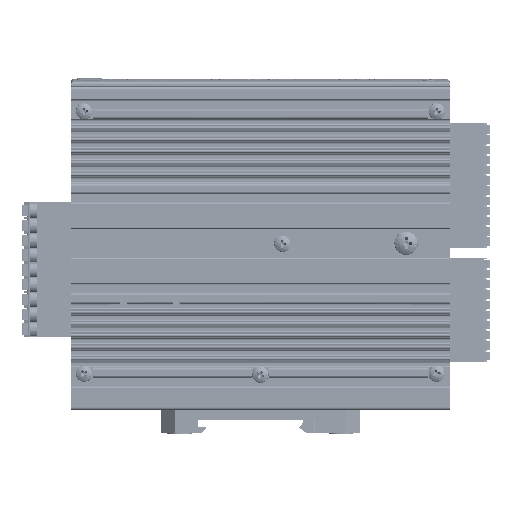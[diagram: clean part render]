
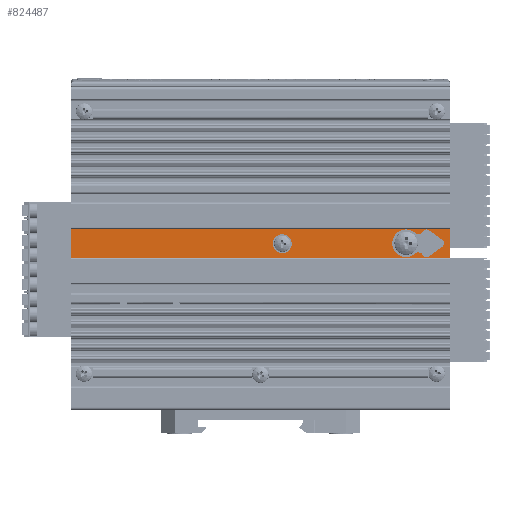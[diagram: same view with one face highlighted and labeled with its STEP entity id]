
A CAD part, left-side view. The second image highlights one B-rep face of the part: STEP entity #824487.
In plain terms, the highlighted planar face has unit normal (-1, 0, 0) as drawn and (0, 0, -1) by its records, which use the part's own axes.
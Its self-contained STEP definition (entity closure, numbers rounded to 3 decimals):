
#4838 = ORIENTED_EDGE ( 'NONE', *, *, #300573, .F. ) ;
#29733 = DIRECTION ( 'NONE',  ( 0., 0., -1. ) ) ;
#34721 = CARTESIAN_POINT ( 'NONE',  ( 74.107, 0., -69.697 ) ) ;
#46610 = CARTESIAN_POINT ( 'NONE',  ( 64.191, 72.5, -69.697 ) ) ;
#95324 = DIRECTION ( 'NONE',  ( 0., 0., 1. ) ) ;
#98968 = VERTEX_POINT ( 'NONE', #677851 ) ;
#109163 = LINE ( 'NONE', #171686, #788075 ) ;
#137972 = LINE ( 'NONE', #497425, #416685 ) ;
#138323 = AXIS2_PLACEMENT_3D ( 'NONE', #676855, #188086, #466105 ) ;
#138902 = CIRCLE ( 'NONE', #169812, 2.15 ) ;
#155533 = ORIENTED_EDGE ( 'NONE', *, *, #590118, .T. ) ;
#164474 = AXIS2_PLACEMENT_3D ( 'NONE', #389347, #29733, #839292 ) ;
#169812 = AXIS2_PLACEMENT_3D ( 'NONE', #262102, #338879, #554418 ) ;
#171686 = CARTESIAN_POINT ( 'NONE',  ( 74.107, 0., -69.697 ) ) ;
#173831 = FACE_BOUND ( 'NONE', #427153, .T. ) ;
#176406 = DIRECTION ( 'NONE',  ( 0., 0., -1. ) ) ;
#188086 = DIRECTION ( 'NONE',  ( 0., 0., 1. ) ) ;
#212886 = CARTESIAN_POINT ( 'NONE',  ( 62.207, 115., -69.697 ) ) ;
#240963 = FACE_OUTER_BOUND ( 'NONE', #682895, .T. ) ;
#256035 = EDGE_CURVE ( 'NONE', #98968, #576803, #292170, .T. ) ;
#262102 = CARTESIAN_POINT ( 'NONE',  ( 64.357, 115., -69.697 ) ) ;
#281621 = DIRECTION ( 'NONE',  ( 1., 0., 0. ) ) ;
#285108 = CARTESIAN_POINT ( 'NONE',  ( 54.357, 130., -69.697 ) ) ;
#292170 = LINE ( 'NONE', #368879, #593059 ) ;
#300573 = EDGE_CURVE ( 'NONE', #346616, #334099, #776531, .T. ) ;
#303045 = EDGE_CURVE ( 'NONE', #331658, #575545, #643698, .T. ) ;
#324849 = DIRECTION ( 'NONE',  ( 0., -1., 0. ) ) ;
#331658 = VERTEX_POINT ( 'NONE', #474824 ) ;
#332749 = EDGE_CURVE ( 'NONE', #98968, #497842, #137972, .T. ) ;
#334099 = VERTEX_POINT ( 'NONE', #821945 ) ;
#338879 = DIRECTION ( 'NONE',  ( 0., 0., 1. ) ) ;
#343921 = VECTOR ( 'NONE', #649156, 1000. ) ;
#346616 = VERTEX_POINT ( 'NONE', #771163 ) ;
#368879 = CARTESIAN_POINT ( 'NONE',  ( 54.607, 130., -69.697 ) ) ;
#389347 = CARTESIAN_POINT ( 'NONE',  ( 64.191, 72.5, -69.697 ) ) ;
#390016 = EDGE_LOOP ( 'NONE', ( #4838, #657980 ) ) ;
#416685 = VECTOR ( 'NONE', #281621, 1000. ) ;
#427153 = EDGE_LOOP ( 'NONE', ( #155533, #645820 ) ) ;
#442175 = AXIS2_PLACEMENT_3D ( 'NONE', #46610, #176406, #473359 ) ;
#466105 = DIRECTION ( 'NONE',  ( 1., 0., 0. ) ) ;
#473359 = DIRECTION ( 'NONE',  ( -1., 0., 0. ) ) ;
#474824 = CARTESIAN_POINT ( 'NONE',  ( 66.507, 115., -69.697 ) ) ;
#497425 = CARTESIAN_POINT ( 'NONE',  ( 54.357, 0., -69.697 ) ) ;
#497842 = VERTEX_POINT ( 'NONE', #34721 ) ;
#536210 = DIRECTION ( 'NONE',  ( 1., 0., 0. ) ) ;
#537581 = ORIENTED_EDGE ( 'NONE', *, *, #864214, .T. ) ;
#554418 = DIRECTION ( 'NONE',  ( 1., 0., 0. ) ) ;
#563329 = LINE ( 'NONE', #285108, #343921 ) ;
#575545 = VERTEX_POINT ( 'NONE', #212886 ) ;
#576803 = VERTEX_POINT ( 'NONE', #933964 ) ;
#583569 = CARTESIAN_POINT ( 'NONE',  ( 74.107, 130., -69.697 ) ) ;
#584386 = DIRECTION ( 'NONE',  ( 0., 1., 0. ) ) ;
#590118 = EDGE_CURVE ( 'NONE', #575545, #331658, #138902, .T. ) ;
#593059 = VECTOR ( 'NONE', #584386, 1000. ) ;
#595802 = AXIS2_PLACEMENT_3D ( 'NONE', #756500, #95324, #536210 ) ;
#639728 = VERTEX_POINT ( 'NONE', #583569 ) ;
#643698 = CIRCLE ( 'NONE', #595802, 2.15 ) ;
#645820 = ORIENTED_EDGE ( 'NONE', *, *, #303045, .T. ) ;
#647185 = EDGE_CURVE ( 'NONE', #639728, #497842, #109163, .T. ) ;
#649156 = DIRECTION ( 'NONE',  ( 1., 0., 0. ) ) ;
#652444 = ORIENTED_EDGE ( 'NONE', *, *, #647185, .T. ) ;
#657980 = ORIENTED_EDGE ( 'NONE', *, *, #675794, .F. ) ;
#675794 = EDGE_CURVE ( 'NONE', #334099, #346616, #854960, .T. ) ;
#676855 = CARTESIAN_POINT ( 'NONE',  ( 54.357, 0., -69.697 ) ) ;
#677851 = CARTESIAN_POINT ( 'NONE',  ( 54.607, 0., -69.697 ) ) ;
#682895 = EDGE_LOOP ( 'NONE', ( #537581, #652444, #865837, #930734 ) ) ;
#691063 = PLANE ( 'NONE',  #138323 ) ;
#756500 = CARTESIAN_POINT ( 'NONE',  ( 64.357, 115., -69.697 ) ) ;
#771163 = CARTESIAN_POINT ( 'NONE',  ( 60.941, 72.5, -69.697 ) ) ;
#776531 = CIRCLE ( 'NONE', #164474, 3.25 ) ;
#788075 = VECTOR ( 'NONE', #324849, 1000. ) ;
#821945 = CARTESIAN_POINT ( 'NONE',  ( 67.441, 72.5, -69.697 ) ) ;
#824487 = ADVANCED_FACE ( 'NONE', ( #173831, #901706, #240963 ), #691063, .F. ) ;
#839292 = DIRECTION ( 'NONE',  ( -1., 0., 0. ) ) ;
#854960 = CIRCLE ( 'NONE', #442175, 3.25 ) ;
#864214 = EDGE_CURVE ( 'NONE', #576803, #639728, #563329, .T. ) ;
#865837 = ORIENTED_EDGE ( 'NONE', *, *, #332749, .F. ) ;
#901706 = FACE_BOUND ( 'NONE', #390016, .T. ) ;
#930734 = ORIENTED_EDGE ( 'NONE', *, *, #256035, .T. ) ;
#933964 = CARTESIAN_POINT ( 'NONE',  ( 54.607, 130., -69.697 ) ) ;
